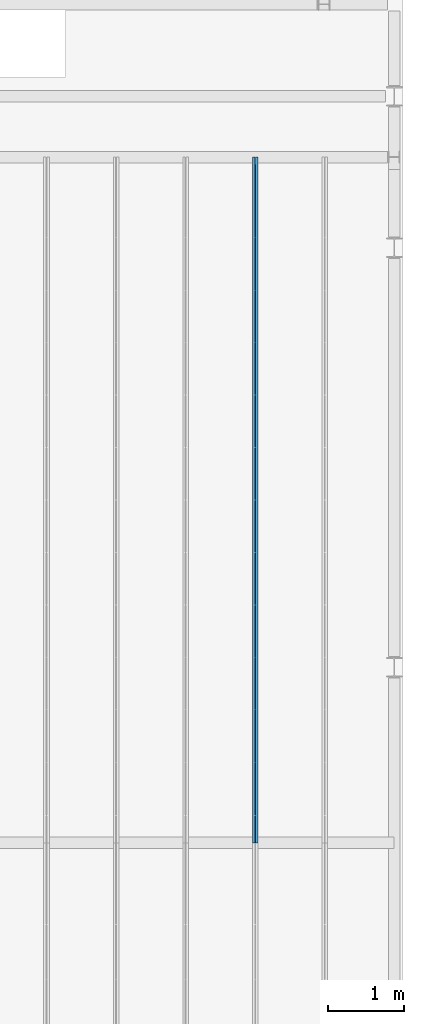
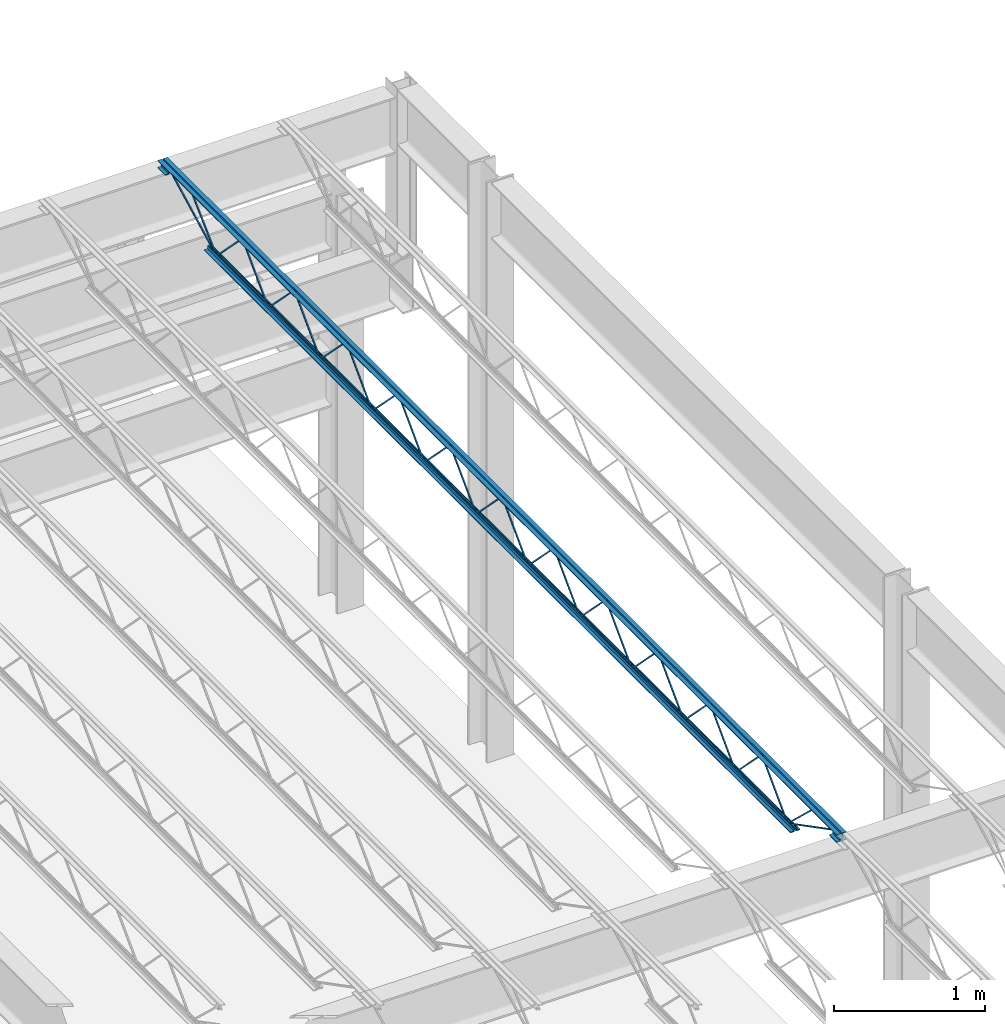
# One storey, part 71 of 119: 1 beam.
"""IFC2X3 building model written with IfcOpenShell, lengths in metres."""

from ifc_helpers import new_model, entity, si_unit, converted_unit, frame, origin, place, context, project, spatial, face_set, surface_model, element, save


model = new_model("IFC2X3")

# Units and contexts
model_context = context("Model", 3, precision=1e-09, world=origin())
plan_context = context("Plan", 3, precision=1e-09, world=origin())
ifc_project = project(units=[si_unit("LENGTHUNIT", "METRE"), si_unit("AREAUNIT", "SQUARE_METRE"), si_unit("VOLUMEUNIT", "CUBIC_METRE"), converted_unit("PLANEANGLEUNIT", "DEGREE", entity("IfcRatioMeasure", 0.01745329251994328), si_unit("PLANEANGLEUNIT", "RADIAN"), dimensions=[0, 0, 0, 0, 0, 0, 0]), si_unit("TIMEUNIT", "SECOND")], contexts=[model_context, plan_context])

# Site, building, storey
site_placement = place(None, origin())
site = spatial("IfcSite", under=ifc_project, at=site_placement, Name="Default", CompositionType="ELEMENT")
building_placement = place(site_placement, origin())
building = spatial("IfcBuilding", under=site, at=building_placement, CompositionType="ELEMENT")
storey_placement = place(building_placement, frame((0.0, 0.0, 4.570000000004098)))
storey = spatial("IfcBuildingStorey", under=building, at=storey_placement, Name="Second Floor", CompositionType="ELEMENT", Elevation=4.570000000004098)

# Beam
beam_placement = place(storey_placement, frame((-1.856750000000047, 18.60999999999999, 4.323999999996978)))
element("IfcBeam", 1, at=beam_placement, inside=storey, Name="M_K-Series Bar Joist-Rod Web:14K1:14K1", ObjectType="M_K-Series Bar Joist-Rod Web:14K1", context=model_context, shape_type="SurfaceModel", body=[
    surface_model("IfcFaceBasedSurfaceModel", [(0.04150000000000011, 6.890090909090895, 0.01110000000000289), (0.03200000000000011, 6.890090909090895, 0.01110000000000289), (0.03200000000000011, 6.890090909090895, 0.001600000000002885), (0.04150000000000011, 6.890090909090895, 0.001600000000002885), (0.03200000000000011, 6.891272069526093, 0.01110000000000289), (0.04150000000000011, 6.891272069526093, 0.01110000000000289), (0.03200000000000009, 6.8952597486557, 0.001600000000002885), (0.03200000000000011, 7.232137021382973, 0.3449000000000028), (0.03200000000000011, 7.234499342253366, 0.3449000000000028), (0.03200000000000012, 7.571376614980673, 0.001600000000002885), (0.03200000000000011, 7.57654545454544, 0.001600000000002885), (0.03200000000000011, 7.57654545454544, 0.01110000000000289), (0.03200000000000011, 7.575364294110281, 0.01110000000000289), (0.0320000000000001, 7.238487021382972, 0.3544000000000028), (0.03200000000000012, 7.228149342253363, 0.3544000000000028), (0.0415000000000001, 6.8952597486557, 0.001600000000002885), (0.04150000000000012, 7.232137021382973, 0.3449000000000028), (0.04150000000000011, 7.234499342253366, 0.3449000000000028), (0.04149999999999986, 7.571376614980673, 0.001600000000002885), (0.04149999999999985, 7.57654545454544, 0.001600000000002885), (0.04150000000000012, 7.57654545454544, 0.01110000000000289), (0.04150000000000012, 7.575364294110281, 0.01110000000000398), (0.04150000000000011, 7.238487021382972, 0.3544000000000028), (0.04150000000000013, 7.228149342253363, 0.3544000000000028), (0.0415000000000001, 6.203636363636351, 0.01110000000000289), (0.0320000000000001, 6.203636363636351, 0.01110000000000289), (0.0320000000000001, 6.203636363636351, 0.001600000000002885), (0.0415000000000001, 6.203636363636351, 0.001600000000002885), (0.03200000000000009, 6.204817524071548, 0.01110000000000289), (0.0415000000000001, 6.204817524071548, 0.01110000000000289), (0.03200000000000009, 6.208805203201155, 0.001600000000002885), (0.03200000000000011, 6.545682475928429, 0.3449000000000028), (0.0320000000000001, 6.548044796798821, 0.3449000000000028), (0.03200000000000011, 6.884922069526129, 0.001600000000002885), (0.03200000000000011, 6.888909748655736, 0.01110000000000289), (0.03200000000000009, 6.552032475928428, 0.3544000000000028), (0.03200000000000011, 6.541694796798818, 0.3544000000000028), (0.04150000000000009, 6.208805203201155, 0.001600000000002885), (0.04150000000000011, 6.545682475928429, 0.3449000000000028), (0.04150000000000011, 6.548044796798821, 0.3449000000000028), (0.04149999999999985, 6.884922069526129, 0.001600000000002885), (0.04149999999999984, 6.890090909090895, 0.001600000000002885), (0.04150000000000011, 6.888909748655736, 0.01110000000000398), (0.0415000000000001, 6.552032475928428, 0.3544000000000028), (0.04150000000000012, 6.541694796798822, 0.3544000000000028), (0.0415000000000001, 5.51718181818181, 0.01110000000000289), (0.03200000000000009, 5.51718181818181, 0.01110000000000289), (0.03200000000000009, 5.51718181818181, 0.001600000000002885), (0.0415000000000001, 5.51718181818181, 0.001600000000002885), (0.03200000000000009, 5.518362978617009, 0.01110000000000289), (0.0415000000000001, 5.518362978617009, 0.01110000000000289), (0.03200000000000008, 5.522350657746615, 0.001600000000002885), (0.0320000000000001, 5.859227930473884, 0.3449000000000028), (0.03200000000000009, 5.861590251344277, 0.3449000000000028), (0.03200000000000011, 6.198467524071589, 0.001600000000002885), (0.0320000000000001, 6.203636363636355, 0.001600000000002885), (0.0320000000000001, 6.203636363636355, 0.01110000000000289), (0.0320000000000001, 6.202455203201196, 0.01110000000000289), (0.03200000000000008, 5.865577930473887, 0.3544000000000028), (0.03200000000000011, 5.855240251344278, 0.3544000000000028), (0.04150000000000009, 5.522350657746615, 0.001600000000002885), (0.0415000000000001, 5.859227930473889, 0.3449000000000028), (0.0415000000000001, 5.861590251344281, 0.3449000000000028), (0.04149999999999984, 6.198467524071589, 0.001600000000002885), (0.04149999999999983, 6.203636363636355, 0.001600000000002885), (0.0415000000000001, 6.203636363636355, 0.01110000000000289), (0.04150000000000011, 6.202455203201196, 0.01110000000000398), (0.04150000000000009, 5.865577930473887, 0.3544000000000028), (0.04150000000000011, 5.855240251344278, 0.3544000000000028), (0.04150000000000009, 4.830727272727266, 0.01110000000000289), (0.03200000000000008, 4.830727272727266, 0.01110000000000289), (0.03200000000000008, 4.830727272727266, 0.001600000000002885), (0.04150000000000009, 4.830727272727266, 0.001600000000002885), (0.03200000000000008, 4.831908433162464, 0.01110000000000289), (0.04150000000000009, 4.831908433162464, 0.01110000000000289), (0.03200000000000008, 4.835896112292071, 0.001600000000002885), (0.03200000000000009, 5.172773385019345, 0.3449000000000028), (0.03200000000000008, 5.175135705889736, 0.3449000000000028), (0.0320000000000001, 5.512012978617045, 0.001600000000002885), (0.03200000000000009, 5.516000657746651, 0.01110000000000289), (0.03200000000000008, 5.179123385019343, 0.3544000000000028), (0.0320000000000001, 5.168785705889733, 0.3544000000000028), (0.04150000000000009, 4.835896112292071, 0.001600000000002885), (0.0415000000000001, 5.172773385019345, 0.3449000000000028), (0.04150000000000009, 5.175135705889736, 0.3449000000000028), (0.04149999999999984, 5.512012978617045, 0.001600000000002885), (0.04149999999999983, 5.51718181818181, 0.001600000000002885), (0.0415000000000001, 5.516000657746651, 0.01110000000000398), (0.04150000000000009, 5.179123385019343, 0.3544000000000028), (0.0415000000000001, 5.168785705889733, 0.3544000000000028), (0.04150000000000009, 4.144272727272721, 0.01110000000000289), (0.03200000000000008, 4.144272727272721, 0.01110000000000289), (0.03200000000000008, 4.144272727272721, 0.001600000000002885), (0.04150000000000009, 4.144272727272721, 0.001600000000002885), (0.03200000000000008, 4.145453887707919, 0.01110000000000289), (0.04150000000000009, 4.145453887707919, 0.01110000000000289), (0.03200000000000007, 4.149441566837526, 0.001600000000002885), (0.03200000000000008, 4.4863188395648, 0.3449000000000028), (0.03200000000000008, 4.488681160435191, 0.3449000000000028), (0.03200000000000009, 4.8255584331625, 0.001600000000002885), (0.03200000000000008, 4.83072727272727, 0.001600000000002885), (0.03200000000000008, 4.829546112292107, 0.01110000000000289), (0.03200000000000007, 4.492668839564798, 0.3544000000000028), (0.03200000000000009, 4.482331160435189, 0.3544000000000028), (0.04150000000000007, 4.149441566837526, 0.001600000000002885), (0.04150000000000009, 4.4863188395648, 0.3449000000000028), (0.04150000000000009, 4.488681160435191, 0.3449000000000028), (0.04149999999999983, 4.8255584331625, 0.001600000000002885), (0.04149999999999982, 4.830727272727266, 0.001600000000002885), (0.04150000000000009, 4.83072727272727, 0.01110000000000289), (0.04150000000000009, 4.829546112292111, 0.01110000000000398), (0.04150000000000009, 4.492668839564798, 0.3544000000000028), (0.0415000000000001, 4.482331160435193, 0.3544000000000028), (0.04150000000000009, 3.457818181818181, 0.01110000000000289), (0.03200000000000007, 3.457818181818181, 0.01110000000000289), (0.03200000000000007, 3.457818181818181, 0.001600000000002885), (0.04150000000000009, 3.457818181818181, 0.001600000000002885), (0.03200000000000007, 3.458999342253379, 0.01110000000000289), (0.04150000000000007, 3.458999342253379, 0.01110000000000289), (0.03200000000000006, 3.462987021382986, 0.001600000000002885), (0.03200000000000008, 3.799864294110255, 0.3449000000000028), (0.03200000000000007, 3.802226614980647, 0.3449000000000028), (0.03200000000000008, 4.13910388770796, 0.001600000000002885), (0.03200000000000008, 4.144272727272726, 0.001600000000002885), (0.03200000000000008, 4.144272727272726, 0.01110000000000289), (0.03200000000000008, 4.143091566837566, 0.01110000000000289), (0.03200000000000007, 3.806214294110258, 0.3544000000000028), (0.03200000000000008, 3.795876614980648, 0.3544000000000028), (0.04150000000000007, 3.462987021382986, 0.001600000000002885), (0.04150000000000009, 3.79986429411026, 0.3449000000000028), (0.04150000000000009, 3.802226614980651, 0.3449000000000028), (0.04149999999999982, 4.13910388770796, 0.001600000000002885), (0.04149999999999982, 4.144272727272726, 0.001600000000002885), (0.04150000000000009, 4.144272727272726, 0.01110000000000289), (0.04150000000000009, 4.143091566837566, 0.01110000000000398), (0.04150000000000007, 3.806214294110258, 0.3544000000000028), (0.04150000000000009, 3.795876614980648, 0.3544000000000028), (0.04150000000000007, 2.771363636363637, 0.01110000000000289), (0.03200000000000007, 2.771363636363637, 0.01110000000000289), (0.03200000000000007, 2.771363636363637, 0.001600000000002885), (0.04150000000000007, 2.771363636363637, 0.001600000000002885), (0.03200000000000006, 2.772544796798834, 0.01110000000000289), (0.04150000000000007, 2.772544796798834, 0.01110000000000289), (0.03200000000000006, 2.776532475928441, 0.001600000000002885), (0.03200000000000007, 3.113409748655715, 0.3449000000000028), (0.03200000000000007, 3.115772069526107, 0.3449000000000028), (0.03200000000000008, 3.452649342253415, 0.001600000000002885), (0.03200000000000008, 3.456637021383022, 0.01110000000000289), (0.03200000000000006, 3.119759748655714, 0.3544000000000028), (0.03200000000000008, 3.109422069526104, 0.3544000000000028), (0.04150000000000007, 2.776532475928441, 0.001600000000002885), (0.04150000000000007, 3.113409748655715, 0.3449000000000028), (0.04150000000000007, 3.115772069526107, 0.3449000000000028), (0.04149999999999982, 3.452649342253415, 0.001600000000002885), (0.04149999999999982, 3.457818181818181, 0.001600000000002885), (0.04150000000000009, 3.456637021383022, 0.01110000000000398), (0.04150000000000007, 3.119759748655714, 0.3544000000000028), (0.04150000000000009, 3.109422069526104, 0.3544000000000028), (0.04150000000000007, 2.084909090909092, 0.01110000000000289), (0.03200000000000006, 2.084909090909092, 0.01110000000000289), (0.03200000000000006, 2.084909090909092, 0.001600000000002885), (0.04150000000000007, 2.084909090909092, 0.001600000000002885), (0.03200000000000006, 2.08609025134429, 0.01110000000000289), (0.04150000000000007, 2.08609025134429, 0.01110000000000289), (0.03200000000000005, 2.090077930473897, 0.001600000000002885), (0.03200000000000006, 2.426955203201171, 0.3449000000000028), (0.03200000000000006, 2.429317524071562, 0.3449000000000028), (0.03200000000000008, 2.766194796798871, 0.001600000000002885), (0.03200000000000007, 2.770182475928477, 0.01110000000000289), (0.03200000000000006, 2.433305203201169, 0.3544000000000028), (0.03200000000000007, 2.422967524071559, 0.3544000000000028), (0.04150000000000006, 2.090077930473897, 0.001600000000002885), (0.04150000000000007, 2.426955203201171, 0.3449000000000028), (0.04150000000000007, 2.429317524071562, 0.3449000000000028), (0.04149999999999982, 2.766194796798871, 0.001600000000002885), (0.0414999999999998, 2.771363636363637, 0.001600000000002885), (0.04150000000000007, 2.770182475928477, 0.01110000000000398), (0.04150000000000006, 2.433305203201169, 0.3544000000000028), (0.04150000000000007, 2.422967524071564, 0.3544000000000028), (0.04150000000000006, 1.398454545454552, 0.01110000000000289), (0.03200000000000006, 1.398454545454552, 0.01110000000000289), (0.03200000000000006, 1.398454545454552, 0.001600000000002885), (0.04150000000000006, 1.398454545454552, 0.001600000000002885), (0.03200000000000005, 1.39963570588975, 0.01110000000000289), (0.04150000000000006, 1.39963570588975, 0.01110000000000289), (0.03200000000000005, 1.403623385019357, 0.001600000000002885), (0.03200000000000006, 1.740500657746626, 0.3449000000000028), (0.03200000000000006, 1.742862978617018, 0.3449000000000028), (0.03200000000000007, 2.07974025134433, 0.001600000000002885), (0.03200000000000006, 2.084909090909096, 0.001600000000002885), (0.03200000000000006, 2.084909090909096, 0.01110000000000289), (0.03200000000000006, 2.083727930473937, 0.01110000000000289), (0.03200000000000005, 1.746850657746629, 0.3544000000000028), (0.03200000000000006, 1.736512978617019, 0.3544000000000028), (0.04150000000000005, 1.403623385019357, 0.001600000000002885), (0.04150000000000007, 1.74050065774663, 0.3449000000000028), (0.04150000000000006, 1.742862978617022, 0.3449000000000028), (0.0414999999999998, 2.07974025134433, 0.001600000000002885), (0.04149999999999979, 2.084909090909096, 0.001600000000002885), (0.04150000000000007, 2.084909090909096, 0.01110000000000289), (0.04150000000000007, 2.083727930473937, 0.01110000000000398), (0.04150000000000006, 1.746850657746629, 0.3544000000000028), (0.04150000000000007, 1.736512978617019, 0.3544000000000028), (0.04150000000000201, 7.57654545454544, 0.01109999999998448), (0.03200000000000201, 7.57654545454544, 0.01109999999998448), (0.03200000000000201, 7.57654545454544, 0.001599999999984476), (0.04150000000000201, 7.57654545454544, 0.001599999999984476), (0.032000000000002, 7.577726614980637, 0.01109999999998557), (0.04150000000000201, 7.577726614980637, 0.01109999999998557), (0.032000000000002, 7.581714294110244, 0.001599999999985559), (0.03200000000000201, 7.918591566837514, 0.3448999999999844), (0.03200000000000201, 7.92095388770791, 0.3448999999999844), (0.03200000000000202, 8.257831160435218, 0.001599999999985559), (0.03200000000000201, 8.262999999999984, 0.001599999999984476), (0.03200000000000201, 8.262999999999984, 0.01109999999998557), (0.03200000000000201, 8.261818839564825, 0.01109999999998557), (0.032000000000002, 7.924941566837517, 0.3543999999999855), (0.03200000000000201, 7.914603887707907, 0.3543999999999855), (0.041500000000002, 7.581714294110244, 0.001599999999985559), (0.04150000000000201, 7.918591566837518, 0.3448999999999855), (0.04150000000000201, 7.92095388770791, 0.3448999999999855), (0.04150000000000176, 8.257831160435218, 0.001599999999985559), (0.04150000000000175, 8.262999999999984, 0.001599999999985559), (0.04150000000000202, 8.262999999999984, 0.01109999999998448), (0.04150000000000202, 8.261818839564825, 0.01109999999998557), (0.041500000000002, 7.924941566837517, 0.3543999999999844), (0.04150000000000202, 7.914603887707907, 0.3543999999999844), (0.04150000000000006, 0.7120000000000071, 0.01110000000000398), (0.03200000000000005, 0.7120000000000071, 0.01110000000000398), (0.03200000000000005, 0.7120000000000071, 0.001600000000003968), (0.04150000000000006, 0.7120000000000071, 0.001600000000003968), (0.03200000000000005, 0.713181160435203, 0.01110000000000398), (0.04150000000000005, 0.713181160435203, 0.01110000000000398), (0.03200000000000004, 0.7171688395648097, 0.001600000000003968), (0.03200000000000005, 1.054046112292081, 0.3449000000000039), (0.03200000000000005, 1.056408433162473, 0.3449000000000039), (0.03200000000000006, 1.393285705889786, 0.001600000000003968), (0.03200000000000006, 1.398454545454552, 0.001600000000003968), (0.03200000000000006, 1.398454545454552, 0.01110000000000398), (0.03200000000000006, 1.397273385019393, 0.01110000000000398), (0.03200000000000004, 1.060396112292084, 0.3544000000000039), (0.03200000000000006, 1.050058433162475, 0.3544000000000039), (0.04150000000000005, 0.7171688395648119, 0.001600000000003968), (0.04150000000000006, 1.054046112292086, 0.3449000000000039), (0.04150000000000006, 1.056408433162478, 0.3449000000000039), (0.04149999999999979, 1.393285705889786, 0.001600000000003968), (0.04149999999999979, 1.398454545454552, 0.001600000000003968), (0.04150000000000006, 1.398454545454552, 0.01110000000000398), (0.04150000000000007, 1.397273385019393, 0.01110000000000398), (0.04150000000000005, 1.060396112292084, 0.3544000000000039), (0.04150000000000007, 1.050058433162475, 0.3544000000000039), (0.03200000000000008, 8.975, 0.3559999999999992), (0.0, 8.975, 0.3559999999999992), (0.0, 8.975, 0.3494999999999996), (0.02549999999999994, 8.975, 0.3494999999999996), (0.02549999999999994, 8.975, 0.3239999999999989), (0.03200000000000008, 8.975, 0.3239999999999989), (0.04149999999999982, 8.975, 0.3559999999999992), (0.04149999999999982, 8.975, 0.3239999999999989), (0.0479999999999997, 8.975, 0.3239999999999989), (0.0479999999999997, 8.975, 0.3494999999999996), (0.07350000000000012, 8.975, 0.3494999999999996), (0.07350000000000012, 8.975, 0.3559999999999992), (0.03200000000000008, 0.0, 0.3559999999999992), (0.0, 0.0, 0.3559999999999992), (0.0, 0.0, 0.3494999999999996), (0.02549999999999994, 0.0, 0.3494999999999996), (0.02549999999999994, 0.0, 0.3239999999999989), (0.03200000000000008, 0.0, 0.3239999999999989), (0.04149999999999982, 0.0, 0.3559999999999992), (0.04149999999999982, 0.0, 0.3239999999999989), (0.0479999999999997, 0.0, 0.3239999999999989), (0.0479999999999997, 0.0, 0.3494999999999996), (0.07350000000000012, 0.0, 0.3494999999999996), (0.07350000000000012, 0.0, 0.3559999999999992), (0.04149999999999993, 0.0999999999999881, 0.2924999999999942), (0.07350000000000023, 0.0999999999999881, 0.2924999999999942), (0.07350000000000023, 0.0999999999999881, 0.2989999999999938), (0.04799999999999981, 0.0999999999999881, 0.2989999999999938), (0.04799999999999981, 0.0999999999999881, 0.3239999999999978), (0.04149999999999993, 0.0999999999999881, 0.3239999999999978), (0.0, 0.0999999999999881, 0.2924999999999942), (0.03199999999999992, 0.0999999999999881, 0.2924999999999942), (0.03199999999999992, 0.0999999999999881, 0.3239999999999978), (0.02550000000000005, 0.0999999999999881, 0.3239999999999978), (0.02550000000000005, 0.0999999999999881, 0.2989999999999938), (0.0, 0.0999999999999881, 0.2989999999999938), (0.04149999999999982, 0.0, 0.2924999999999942), (0.07350000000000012, 0.0, 0.2924999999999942), (0.07350000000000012, 0.0, 0.2989999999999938), (0.0479999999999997, 0.0, 0.2989999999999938), (0.0479999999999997, 0.0, 0.3239999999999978), (0.04149999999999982, 0.0, 0.3239999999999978), (0.0, 0.0, 0.2924999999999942), (0.03199999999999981, 0.0, 0.2924999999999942), (0.03199999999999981, 0.0, 0.3239999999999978), (0.02549999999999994, 0.0, 0.3239999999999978), (0.02549999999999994, 0.0, 0.2989999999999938), (0.0, 0.0, 0.2989999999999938), (0.03199999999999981, 8.975, 0.2924999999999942), (0.03199999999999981, 8.975, 0.3239999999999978), (0.02549999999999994, 8.975, 0.3239999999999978), (0.02549999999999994, 8.975, 0.2989999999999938), (0.0, 8.975, 0.2989999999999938), (0.0, 8.975, 0.2924999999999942), (0.04149999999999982, 8.975, 0.2924999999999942), (0.07350000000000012, 8.975, 0.2924999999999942), (0.07350000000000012, 8.975, 0.2989999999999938), (0.0479999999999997, 8.975, 0.2989999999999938), (0.0479999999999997, 8.975, 0.3239999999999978), (0.04149999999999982, 8.975, 0.3239999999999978), (0.0319999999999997, 8.875000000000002, 0.2924999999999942), (0.0319999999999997, 8.875000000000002, 0.3239999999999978), (0.02549999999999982, 8.875000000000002, 0.3239999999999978), (0.02549999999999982, 8.875000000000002, 0.2989999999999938), (0.0, 8.875000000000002, 0.2989999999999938), (0.0, 8.875000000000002, 0.2924999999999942), (0.0414999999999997, 8.875000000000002, 0.2924999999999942), (0.07350000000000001, 8.875000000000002, 0.2924999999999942), (0.07350000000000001, 8.875000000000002, 0.2989999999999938), (0.04799999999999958, 8.875000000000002, 0.2989999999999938), (0.04799999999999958, 8.875000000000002, 0.3239999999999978), (0.0414999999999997, 8.875000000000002, 0.3239999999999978), (0.03199999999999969, 8.363000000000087, 0.0), (0.03199999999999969, 8.363000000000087, 0.03199999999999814), (0.02549999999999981, 8.363000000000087, 0.03199999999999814), (0.02549999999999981, 8.363000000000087, 0.006499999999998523), (0.0, 8.363000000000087, 0.006499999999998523), (0.0, 8.363000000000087, 0.0), (0.0414999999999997, 8.363000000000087, 0.0), (0.0735, 8.363000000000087, 0.0), (0.0735, 8.363000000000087, 0.006499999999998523), (0.04799999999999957, 8.363000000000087, 0.006499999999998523), (0.04799999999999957, 8.363000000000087, 0.03199999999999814), (0.0414999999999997, 8.363000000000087, 0.03199999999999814), (0.03199999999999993, 0.612000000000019, 0.0), (0.03199999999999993, 0.612000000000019, 0.03199999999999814), (0.02550000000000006, 0.612000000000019, 0.03199999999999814), (0.02550000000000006, 0.612000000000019, 0.006499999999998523), (0.0, 0.612000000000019, 0.006499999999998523), (0.0, 0.612000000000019, 0.0), (0.04149999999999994, 0.612000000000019, 0.0), (0.07350000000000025, 0.612000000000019, 0.0), (0.07350000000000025, 0.612000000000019, 0.006499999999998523), (0.04799999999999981, 0.612000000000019, 0.006499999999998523), (0.04799999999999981, 0.612000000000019, 0.03199999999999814), (0.04149999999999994, 0.612000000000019, 0.03199999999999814), (0.04150000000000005, 0.7141882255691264, 0.01056594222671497), (0.03200000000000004, 0.7141882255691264, 0.01056594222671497), (0.03200000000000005, 0.7098117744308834, 0.002134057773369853), (0.04150000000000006, 0.7098117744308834, 0.002134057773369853), (0.04149999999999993, 0.1011592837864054, 0.3287499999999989), (0.04150000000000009, 0.0, 0.3287499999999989), (0.04150000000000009, 0.0, 0.3192499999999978), (0.0415000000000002, 0.09884071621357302, 0.3192499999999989), (0.0320000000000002, 0.09884071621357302, 0.3192499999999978), (0.0320000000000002, 0.1011592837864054, 0.3287499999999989), (0.03200000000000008, 0.0, 0.3287499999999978), (0.03200000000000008, 0.0, 0.3192499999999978), (0.04150000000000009, 0.3488155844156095, 0.3417000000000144), (0.03200000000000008, 0.3488155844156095, 0.3417000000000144), (0.03200000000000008, 0.3488155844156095, 0.3322000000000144), (0.04150000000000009, 0.3488155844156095, 0.3322000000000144), (0.03200000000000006, 0.3634023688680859, 0.3417000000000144), (0.04150000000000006, 0.3634023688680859, 0.3417000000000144), (0.03200000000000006, 0.3596287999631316, 0.3322000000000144), (0.03200000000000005, 0.7087406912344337, 0.002894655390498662), (0.03200000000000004, 0.7152593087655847, 0.009805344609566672), (0.04150000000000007, 0.3596287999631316, 0.3322000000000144), (0.04150000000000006, 0.7087406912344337, 0.002894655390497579), (0.04150000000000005, 0.7152593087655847, 0.009805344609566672), (0.04149999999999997, 8.877188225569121, 0.3197840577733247), (0.04149999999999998, 8.87281177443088, 0.3282159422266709), (0.03199999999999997, 8.87281177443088, 0.3282159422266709), (0.03199999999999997, 8.877188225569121, 0.3197840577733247), (0.04150000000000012, 8.26518822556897, 0.002134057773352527), (0.04150000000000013, 8.260811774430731, 0.01056594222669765), (0.03200000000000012, 8.260811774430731, 0.01056594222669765), (0.03200000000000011, 8.26518822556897, 0.002134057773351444), (0.0415000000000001, 8.624030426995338, 0.346222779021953), (0.04150000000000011, 8.617452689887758, 0.3530772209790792), (0.03200000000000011, 8.617452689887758, 0.3530772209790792), (0.03200000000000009, 8.624030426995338, 0.346222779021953), (0.04150000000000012, 8.26628886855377, 0.002922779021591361), (0.04150000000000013, 8.25971113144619, 0.009777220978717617), (0.03200000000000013, 8.25971113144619, 0.009777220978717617), (0.03200000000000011, 8.26628886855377, 0.002922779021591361)], [face_set([[[0, 1, 2, 3]], [[1, 4, 5, 0]], [[2, 6, 7, 8, 9, 10, 11, 12, 13, 14, 4, 1]], [[3, 2, 6, 15]], [[0, 3, 15, 16, 17, 18, 19, 20, 21, 22, 23, 5]], [[4, 5, 23, 14]], [[15, 16, 7, 6]], [[14, 13, 22, 23]], [[16, 7, 8, 17]], [[13, 12, 21, 22]], [[17, 8, 9, 18]], [[20, 11, 10, 19]], [[12, 11, 20, 21]], [[18, 9, 10, 19]]]), face_set([[[24, 25, 26, 27]], [[25, 28, 29, 24]], [[26, 30, 31, 32, 33, 2, 1, 34, 35, 36, 28, 25]], [[27, 26, 30, 37]], [[24, 27, 37, 38, 39, 40, 41, 0, 42, 43, 44, 29]], [[28, 29, 44, 36]], [[37, 38, 31, 30]], [[36, 35, 43, 44]], [[38, 31, 32, 39]], [[35, 34, 42, 43]], [[39, 32, 33, 40]], [[0, 1, 2, 41]], [[34, 1, 0, 42]], [[40, 33, 2, 41]]]), face_set([[[45, 46, 47, 48]], [[46, 49, 50, 45]], [[47, 51, 52, 53, 54, 55, 56, 57, 58, 59, 49, 46]], [[48, 47, 51, 60]], [[45, 48, 60, 61, 62, 63, 64, 65, 66, 67, 68, 50]], [[49, 50, 68, 59]], [[60, 61, 52, 51]], [[59, 58, 67, 68]], [[61, 52, 53, 62]], [[58, 57, 66, 67]], [[62, 53, 54, 63]], [[65, 56, 55, 64]], [[57, 56, 65, 66]], [[63, 54, 55, 64]]]), face_set([[[69, 70, 71, 72]], [[70, 73, 74, 69]], [[71, 75, 76, 77, 78, 47, 46, 79, 80, 81, 73, 70]], [[72, 71, 75, 82]], [[69, 72, 82, 83, 84, 85, 86, 45, 87, 88, 89, 74]], [[73, 74, 89, 81]], [[82, 83, 76, 75]], [[81, 80, 88, 89]], [[83, 76, 77, 84]], [[80, 79, 87, 88]], [[84, 77, 78, 85]], [[45, 46, 47, 86]], [[79, 46, 45, 87]], [[85, 78, 47, 86]]]), face_set([[[90, 91, 92, 93]], [[91, 94, 95, 90]], [[92, 96, 97, 98, 99, 100, 70, 101, 102, 103, 94, 91]], [[93, 92, 96, 104]], [[90, 93, 104, 105, 106, 107, 108, 109, 110, 111, 112, 95]], [[94, 95, 112, 103]], [[104, 105, 97, 96]], [[103, 102, 111, 112]], [[105, 97, 98, 106]], [[102, 101, 110, 111]], [[106, 98, 99, 107]], [[109, 70, 100, 108]], [[101, 70, 109, 110]], [[107, 99, 100, 108]]]), face_set([[[113, 114, 115, 116]], [[114, 117, 118, 113]], [[115, 119, 120, 121, 122, 123, 124, 125, 126, 127, 117, 114]], [[116, 115, 119, 128]], [[113, 116, 128, 129, 130, 131, 132, 133, 134, 135, 136, 118]], [[117, 118, 136, 127]], [[128, 129, 120, 119]], [[127, 126, 135, 136]], [[129, 120, 121, 130]], [[126, 125, 134, 135]], [[130, 121, 122, 131]], [[133, 124, 123, 132]], [[125, 124, 133, 134]], [[131, 122, 123, 132]]]), face_set([[[137, 138, 139, 140]], [[138, 141, 142, 137]], [[139, 143, 144, 145, 146, 115, 114, 147, 148, 149, 141, 138]], [[140, 139, 143, 150]], [[137, 140, 150, 151, 152, 153, 154, 113, 155, 156, 157, 142]], [[141, 142, 157, 149]], [[150, 151, 144, 143]], [[149, 148, 156, 157]], [[151, 144, 145, 152]], [[148, 147, 155, 156]], [[152, 145, 146, 153]], [[113, 114, 115, 154]], [[147, 114, 113, 155]], [[153, 146, 115, 154]]]), face_set([[[158, 159, 160, 161]], [[159, 162, 163, 158]], [[160, 164, 165, 166, 167, 139, 138, 168, 169, 170, 162, 159]], [[161, 160, 164, 171]], [[158, 161, 171, 172, 173, 174, 175, 137, 176, 177, 178, 163]], [[162, 163, 178, 170]], [[171, 172, 165, 164]], [[170, 169, 177, 178]], [[172, 165, 166, 173]], [[169, 168, 176, 177]], [[173, 166, 167, 174]], [[137, 138, 139, 175]], [[168, 138, 137, 176]], [[174, 167, 139, 175]]]), face_set([[[179, 180, 181, 182]], [[180, 183, 184, 179]], [[181, 185, 186, 187, 188, 189, 190, 191, 192, 193, 183, 180]], [[182, 181, 185, 194]], [[179, 182, 194, 195, 196, 197, 198, 199, 200, 201, 202, 184]], [[183, 184, 202, 193]], [[194, 195, 186, 185]], [[193, 192, 201, 202]], [[195, 186, 187, 196]], [[192, 191, 200, 201]], [[196, 187, 188, 197]], [[199, 190, 189, 198]], [[191, 190, 199, 200]], [[197, 188, 189, 198]]]), face_set([[[203, 204, 205, 206]], [[204, 207, 208, 203]], [[205, 209, 210, 211, 212, 213, 214, 215, 216, 217, 207, 204]], [[206, 205, 209, 218]], [[203, 206, 218, 219, 220, 221, 222, 223, 224, 225, 226, 208]], [[207, 208, 226, 217]], [[218, 219, 210, 209]], [[217, 216, 225, 226]], [[219, 210, 211, 220]], [[216, 215, 224, 225]], [[220, 211, 212, 221]], [[223, 214, 213, 222]], [[215, 214, 223, 224]], [[221, 212, 213, 222]]]), face_set([[[227, 228, 229, 230]], [[228, 231, 232, 227]], [[229, 233, 234, 235, 236, 237, 238, 239, 240, 241, 231, 228]], [[230, 229, 233, 242]], [[227, 230, 242, 243, 244, 245, 246, 247, 248, 249, 250, 232]], [[231, 232, 250, 241]], [[242, 243, 234, 233]], [[241, 240, 249, 250]], [[243, 234, 235, 244]], [[240, 239, 248, 249]], [[244, 235, 236, 245]], [[247, 238, 237, 246]], [[239, 238, 247, 248]], [[245, 236, 237, 246]]]), face_set([[[251, 252, 253, 254, 255, 256]], [[257, 258, 259, 260, 261, 262]], [[263, 264, 265, 266, 267, 268]], [[269, 270, 271, 272, 273, 274]], [[256, 251, 263, 268]], [[255, 256, 268, 267]], [[254, 266, 267, 255]], [[253, 254, 266, 265]], [[252, 264, 265, 253]], [[251, 263, 264, 252]], [[262, 274, 269, 257]], [[261, 262, 274, 273]], [[260, 261, 273, 272]], [[259, 260, 272, 271]], [[258, 259, 271, 270]], [[257, 269, 270, 258]]]), face_set([[[275, 276, 277, 278, 279, 280]], [[281, 282, 283, 284, 285, 286]], [[287, 288, 289, 290, 291, 292]], [[293, 294, 295, 296, 297, 298]], [[280, 292, 287, 275]], [[279, 291, 292, 280]], [[278, 279, 291, 290]], [[277, 289, 290, 278]], [[276, 277, 289, 288]], [[275, 276, 288, 287]], [[286, 298, 293, 281]], [[285, 297, 298, 286]], [[284, 296, 297, 285]], [[283, 295, 296, 284]], [[282, 283, 295, 294]], [[281, 282, 294, 293]]]), face_set([[[299, 300, 301, 302, 303, 304]], [[305, 306, 307, 308, 309, 310]], [[311, 312, 313, 314, 315, 316]], [[317, 318, 319, 320, 321, 322]], [[304, 299, 311, 316]], [[303, 315, 316, 304]], [[302, 314, 315, 303]], [[301, 313, 314, 302]], [[300, 312, 313, 301]], [[299, 300, 312, 311]], [[310, 322, 317, 305]], [[309, 321, 322, 310]], [[308, 309, 321, 320]], [[307, 319, 320, 308]], [[306, 307, 319, 318]], [[305, 306, 318, 317]]]), face_set([[[323, 324, 325, 326, 327, 328]], [[329, 330, 331, 332, 333, 334]], [[335, 336, 337, 338, 339, 340]], [[341, 342, 343, 344, 345, 346]], [[328, 323, 335, 340]], [[327, 339, 340, 328]], [[326, 338, 339, 327]], [[325, 337, 338, 326]], [[324, 336, 337, 325]], [[323, 324, 336, 335]], [[334, 346, 341, 329]], [[333, 345, 346, 334]], [[332, 333, 345, 344]], [[331, 343, 344, 332]], [[330, 331, 343, 342]], [[329, 330, 342, 341]]]), face_set([[[347, 348, 349, 350]], [[350, 347, 351, 352, 353, 354]], [[349, 350, 354, 355]], [[348, 356, 357, 358, 355, 349]], [[347, 351, 356, 348]], [[352, 357, 358, 353]], [[355, 354, 353, 358]], [[351, 352, 357, 356]]]), face_set([[[359, 360, 361, 362]], [[360, 363, 364, 359]], [[361, 365, 366, 367, 363, 360]], [[362, 361, 365, 368]], [[359, 362, 368, 369, 370, 364]], [[370, 367, 366, 369]], [[363, 367, 370, 364]], [[368, 365, 366, 369]]]), face_set([[[371, 372, 373, 374]], [[375, 376, 377, 378]], [[374, 378, 375, 371]], [[373, 377, 378, 374]], [[372, 373, 377, 376]], [[371, 372, 376, 375]]]), face_set([[[379, 380, 381, 382]], [[383, 384, 385, 386]], [[382, 386, 383, 379]], [[381, 385, 386, 382]], [[380, 381, 385, 384]], [[379, 380, 384, 383]]])]),
])

save(model, "model.ifc")
